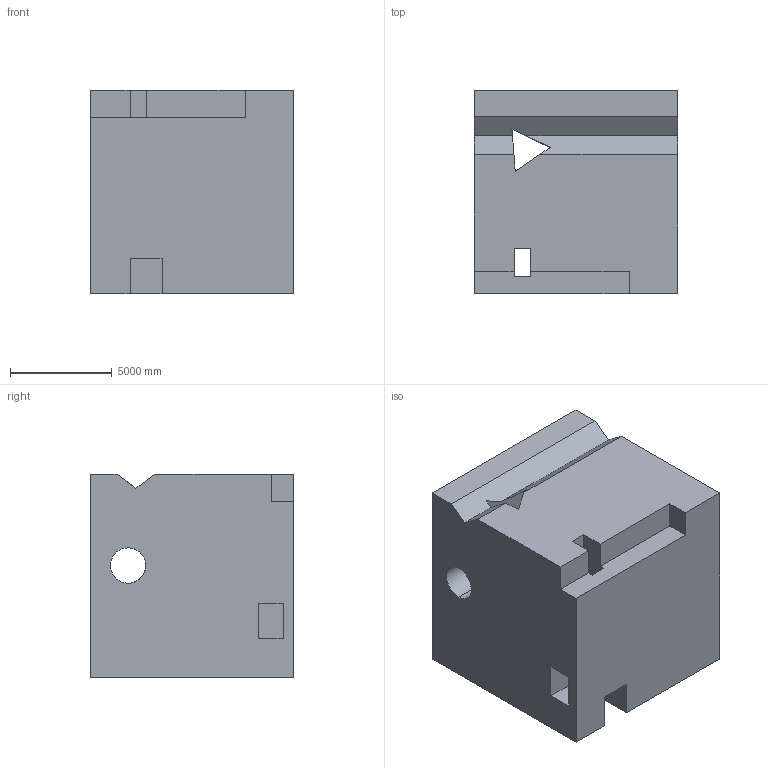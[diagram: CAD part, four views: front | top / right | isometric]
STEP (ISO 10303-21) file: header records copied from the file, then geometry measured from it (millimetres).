
FILE_DESCRIPTION (( 'STEP AP203' ), '1' );
FILE_NAME ('76.STEP', '2022-08-30T14:24:05', ( 'user' ), ( '' ), 'SwSTEP 2.0', 'SolidWorks 2021', '' );
FILE_SCHEMA (( 'CONFIG_CONTROL_DESIGN' ));
Length unit declared in the file: centimetre
Products named in the file (1): 76
Bounding box: 10000 x 10000 x 10000 mm (x, y, z)
Volume: 881642533618.9 mm3; surface area: 825933686.5 mm2
Topology: 1 solids, 1 shells, 39 faces, 126 edges, 84 vertices
Faces by surface type: plane 35, cylinder 4
Entity records: 1465 total; most frequent: CARTESIAN_POINT 256, ORIENTED_EDGE 252, DIRECTION 212, EDGE_CURVE 126, LINE 116, VECTOR 116, VERTEX_POINT 84, AXIS2_PLACEMENT_3D 48
